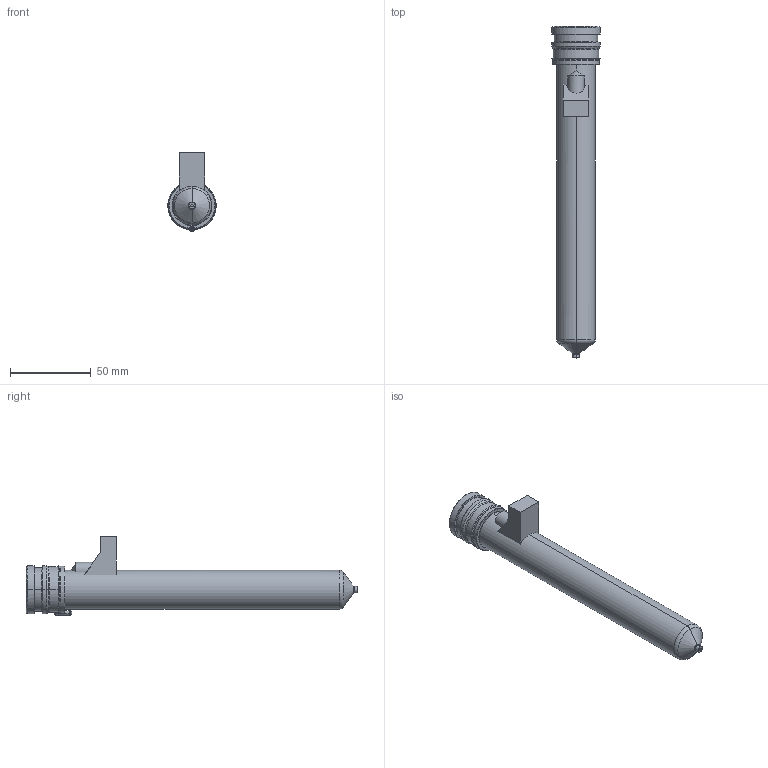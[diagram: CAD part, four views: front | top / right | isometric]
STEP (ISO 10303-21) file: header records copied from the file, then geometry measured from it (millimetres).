
FILE_DESCRIPTION((''),'2;1');
FILE_NAME('MPN-10-29-VP4-186-M','2026-02-05T12:59:46',('UPTIO'),('Thermoplay S.p.A.'),'CREO PARAMETRIC BY PTC INC, 2023494','CREO PARAMETRIC BY PTC INC, 2023494','');
FILE_SCHEMA(('CONFIG_CONTROL_DESIGN','SHAPE_APPEARANCE_LAYERS_GROUPS'));
Length unit declared in the file: millimetre
Products named in the file (1): MPN-10-29-VP4-186-M
Bounding box: 30 x 206.1 x 49 mm (x, y, z)
Volume: 64029.7 mm3; surface area: 66012 mm2
Topology: 3 solids, 5 shells, 570 faces, 1471 edges, 906 vertices
Faces by surface type: cylinder 177, plane 156, bspline 92, torus 69, cone 66, sphere 6, extrusion 4
Entity records: 30851 total; most frequent: CARTESIAN_POINT 14508, ORIENTED_EDGE 2928, DIRECTION 2618, EDGE_CURVE 1464, AXIS2_PLACEMENT_3D 1035, VERTEX_POINT 906, EDGE_LOOP 598, FACE_OUTER_BOUND 570
